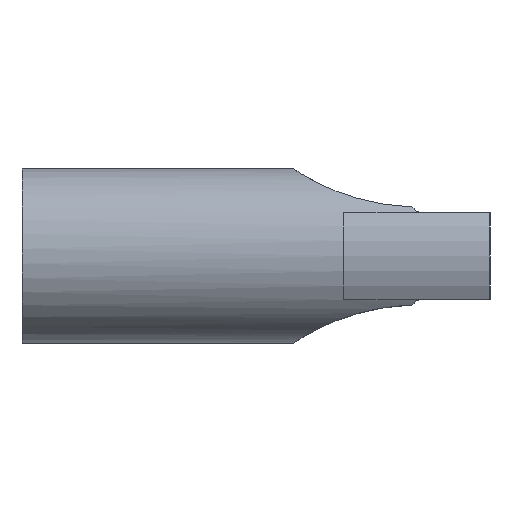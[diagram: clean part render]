
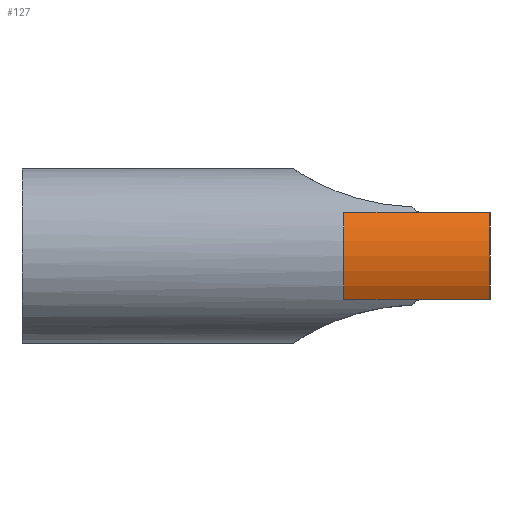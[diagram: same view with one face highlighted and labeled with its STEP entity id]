
A CAD part, left-side view. The second image highlights one B-rep face of the part: STEP entity #127.
In plain terms, the highlighted cylindrical face has radius 6 mm (diameter 12 mm), a partial arc.
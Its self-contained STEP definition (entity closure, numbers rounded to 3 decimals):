
#127 = ADVANCED_FACE( '', ( #246 ), #247, .T. );
#246 = FACE_OUTER_BOUND( '', #350, .T. );
#247 = CYLINDRICAL_SURFACE( '', #351, 6. );
#350 = EDGE_LOOP( '', ( #598, #599, #600, #601, #602, #603, #604, #605 ) );
#351 = AXIS2_PLACEMENT_3D( '', #606, #607, #608 );
#598 = ORIENTED_EDGE( '', *, *, #709, .F. );
#599 = ORIENTED_EDGE( '', *, *, #718, .F. );
#600 = ORIENTED_EDGE( '', *, *, #712, .F. );
#601 = ORIENTED_EDGE( '', *, *, #661, .T. );
#602 = ORIENTED_EDGE( '', *, *, #640, .F. );
#603 = ORIENTED_EDGE( '', *, *, #669, .T. );
#604 = ORIENTED_EDGE( '', *, *, #703, .T. );
#605 = ORIENTED_EDGE( '', *, *, #632, .F. );
#606 = CARTESIAN_POINT( '', ( -0.004, -22., 0. ) );
#607 = DIRECTION( '', ( 0., 1., 0. ) );
#608 = DIRECTION( '', ( 0., 0., -1. ) );
#632 = EDGE_CURVE( '', #745, #747, #748, .T. );
#640 = EDGE_CURVE( '', #758, #759, #760, .T. );
#661 = EDGE_CURVE( '', #796, #759, #797, .T. );
#669 = EDGE_CURVE( '', #758, #807, #809, .T. );
#703 = EDGE_CURVE( '', #807, #747, #856, .T. );
#709 = EDGE_CURVE( '', #863, #745, #864, .T. );
#712 = EDGE_CURVE( '', #796, #867, #868, .T. );
#718 = EDGE_CURVE( '', #867, #863, #874, .T. );
#745 = VERTEX_POINT( '', #939 );
#747 = VERTEX_POINT( '', #942 );
#748 = LINE( '', #943, #944 );
#758 = VERTEX_POINT( '', #967 );
#759 = VERTEX_POINT( '', #968 );
#760 = B_SPLINE_CURVE_WITH_KNOTS( '', 3, ( #969, #970, #971, #972 ), .UNSPECIFIED., .F., .F., ( 4, 4 ), ( 0., 1. ), .UNSPECIFIED. );
#796 = VERTEX_POINT( '', #1154 );
#797 = LINE( '', #1155, #1156 );
#807 = VERTEX_POINT( '', #1173 );
#809 = LINE( '', #1176, #1177 );
#856 = CIRCLE( '', #1385, 6. );
#863 = VERTEX_POINT( '', #1393 );
#864 = B_SPLINE_CURVE_WITH_KNOTS( '', 3, ( #1394, #1395, #1396, #1397 ), .UNSPECIFIED., .F., .F., ( 4, 4 ), ( 0., 1. ), .UNSPECIFIED. );
#867 = VERTEX_POINT( '', #1401 );
#868 = CIRCLE( '', #1402, 6. );
#874 = LINE( '', #1409, #1410 );
#939 = CARTESIAN_POINT( '', ( -5.2, -27.2, 3. ) );
#942 = CARTESIAN_POINT( '', ( -5.2, -32., 3. ) );
#943 = CARTESIAN_POINT( '', ( -5.2, -22., 3. ) );
#944 = VECTOR( '', #1420, 1000. );
#967 = CARTESIAN_POINT( '', ( -5.2, -27.2, -3. ) );
#968 = CARTESIAN_POINT( '', ( -5.2, -27.167, -3. ) );
#969 = CARTESIAN_POINT( '', ( -5.2, -27.2, -3. ) );
#970 = CARTESIAN_POINT( '', ( -5.2, -27.189, -3. ) );
#971 = CARTESIAN_POINT( '', ( -5.2, -27.178, -3. ) );
#972 = CARTESIAN_POINT( '', ( -5.2, -27.167, -3. ) );
#1154 = CARTESIAN_POINT( '', ( -5.2, -22., -3. ) );
#1155 = CARTESIAN_POINT( '', ( -5.2, -22., -3. ) );
#1156 = VECTOR( '', #1439, 1000. );
#1173 = CARTESIAN_POINT( '', ( -5.2, -32., -3. ) );
#1176 = CARTESIAN_POINT( '', ( -5.2, -22., -3. ) );
#1177 = VECTOR( '', #1445, 1000. );
#1385 = AXIS2_PLACEMENT_3D( '', #1471, #1472, #1473 );
#1393 = CARTESIAN_POINT( '', ( -5.2, -27.167, 3. ) );
#1394 = CARTESIAN_POINT( '', ( -5.2, -27.167, 3. ) );
#1395 = CARTESIAN_POINT( '', ( -5.2, -27.178, 3. ) );
#1396 = CARTESIAN_POINT( '', ( -5.2, -27.189, 3. ) );
#1397 = CARTESIAN_POINT( '', ( -5.2, -27.2, 3. ) );
#1401 = CARTESIAN_POINT( '', ( -5.2, -22., 3. ) );
#1402 = AXIS2_PLACEMENT_3D( '', #1479, #1480, #1481 );
#1409 = CARTESIAN_POINT( '', ( -5.2, -22., 3. ) );
#1410 = VECTOR( '', #1483, 1000. );
#1420 = DIRECTION( '', ( 0., -1., 0. ) );
#1439 = DIRECTION( '', ( 0., -1., 0. ) );
#1445 = DIRECTION( '', ( 0., -1., 0. ) );
#1471 = CARTESIAN_POINT( '', ( -0.004, -32., 0. ) );
#1472 = DIRECTION( '', ( 0., 1., 0. ) );
#1473 = DIRECTION( '', ( 1., 0., 0. ) );
#1479 = CARTESIAN_POINT( '', ( -0.004, -22., 0. ) );
#1480 = DIRECTION( '', ( 0., 1., 0. ) );
#1481 = DIRECTION( '', ( 1., 0., 0. ) );
#1483 = DIRECTION( '', ( 0., -1., 0. ) );
